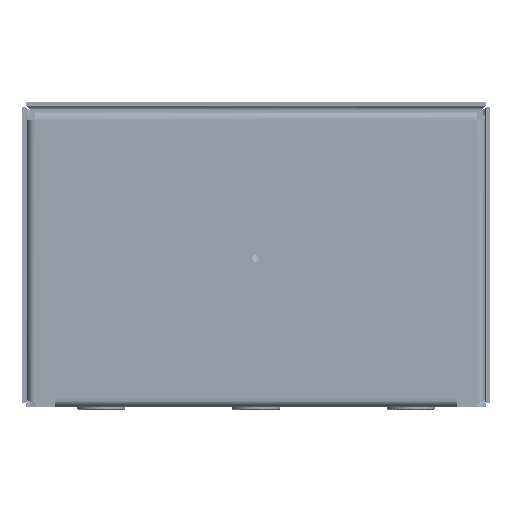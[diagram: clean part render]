
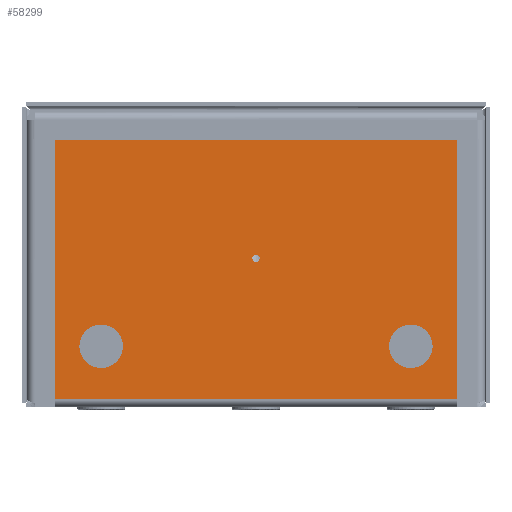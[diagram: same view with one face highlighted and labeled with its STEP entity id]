
A CAD part, front view. The second image highlights one B-rep face of the part: STEP entity #58299.
In plain terms, the highlighted planar face has unit normal (0, -1, 0).
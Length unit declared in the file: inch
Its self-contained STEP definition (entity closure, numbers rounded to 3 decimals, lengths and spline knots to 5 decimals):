
#347 = CARTESIAN_POINT ( 'NONE',  ( 11.32317, 1.44591, 24.34063 ) ) ;
#873 = DIRECTION ( 'NONE',  ( 0., 0., -1. ) ) ;
#1441 = FACE_BOUND ( 'NONE', #136986, .T. ) ;
#1544 = ORIENTED_EDGE ( 'NONE', *, *, #84757, .F. ) ;
#2431 = DIRECTION ( 'NONE',  ( 0., -1., 0. ) ) ;
#7529 = DIRECTION ( 'NONE',  ( 0., 0., -1. ) ) ;
#9046 = CARTESIAN_POINT ( 'NONE',  ( 2.13567, 1.44591, 22.97403 ) ) ;
#9542 = CARTESIAN_POINT ( 'NONE',  ( 3.32317, 1.44591, 24.34063 ) ) ;
#11818 = DIRECTION ( 'NONE',  ( 0., 0., -1. ) ) ;
#12385 = DIRECTION ( 'NONE',  ( 0., -1., 0. ) ) ;
#12557 = VERTEX_POINT ( 'NONE', #54897 ) ;
#16995 = CIRCLE ( 'NONE', #87909, 0.5625 ) ;
#18741 = VECTOR ( 'NONE', #11818, 39.37008 ) ;
#19570 = DIRECTION ( 'NONE',  ( 0., 0., 1. ) ) ;
#26022 = VECTOR ( 'NONE', #47355, 39.37008 ) ;
#27289 = ORIENTED_EDGE ( 'NONE', *, *, #82429, .F. ) ;
#27940 = LINE ( 'NONE', #127282, #18741 ) ;
#28940 = FACE_OUTER_BOUND ( 'NONE', #141325, .T. ) ;
#34222 = DIRECTION ( 'NONE',  ( 0., 0., -1. ) ) ;
#37531 = VERTEX_POINT ( 'NONE', #133506 ) ;
#39172 = CARTESIAN_POINT ( 'NONE',  ( 7.32317, 1.44591, 26.51563 ) ) ;
#40221 = AXIS2_PLACEMENT_3D ( 'NONE', #347, #2431, #873 ) ;
#40443 = DIRECTION ( 'NONE',  ( 0., 0., 1. ) ) ;
#41111 = EDGE_CURVE ( 'NONE', #134559, #104695, #82543, .T. ) ;
#41700 = FACE_BOUND ( 'NONE', #43713, .T. ) ;
#42317 = CARTESIAN_POINT ( 'NONE',  ( 7.32317, 1.44591, 26.61063 ) ) ;
#43713 = EDGE_LOOP ( 'NONE', ( #127293, #54080 ) ) ;
#46429 = EDGE_CURVE ( 'NONE', #89515, #98196, #139519, .T. ) ;
#47185 = AXIS2_PLACEMENT_3D ( 'NONE', #80784, #12385, #104850 ) ;
#47355 = DIRECTION ( 'NONE',  ( -1., 0., 0. ) ) ;
#50491 = CARTESIAN_POINT ( 'NONE',  ( 12.51067, 1.44591, 22.97403 ) ) ;
#51134 = CIRCLE ( 'NONE', #76098, 0.095 ) ;
#51634 = LINE ( 'NONE', #9046, #26022 ) ;
#52158 = ORIENTED_EDGE ( 'NONE', *, *, #127010, .F. ) ;
#52166 = PLANE ( 'NONE',  #94881 ) ;
#54080 = ORIENTED_EDGE ( 'NONE', *, *, #142949, .F. ) ;
#54471 = VERTEX_POINT ( 'NONE', #71106 ) ;
#54897 = CARTESIAN_POINT ( 'NONE',  ( 2.13567, 1.44591, 29.67063 ) ) ;
#55245 = CARTESIAN_POINT ( 'NONE',  ( 2.13567, 1.44591, 22.76063 ) ) ;
#55516 = DIRECTION ( 'NONE',  ( 0., 0., -1. ) ) ;
#56150 = DIRECTION ( 'NONE',  ( 0., -1., 0. ) ) ;
#57256 = VERTEX_POINT ( 'NONE', #50491 ) ;
#58299 = ADVANCED_FACE ( 'NONE', ( #28940, #131271, #1441, #41700 ), #52166, .F. ) ;
#61300 = EDGE_CURVE ( 'NONE', #104695, #134559, #72510, .T. ) ;
#63857 = DIRECTION ( 'NONE',  ( 0., 1., 0. ) ) ;
#66251 = ORIENTED_EDGE ( 'NONE', *, *, #46429, .F. ) ;
#67705 = CARTESIAN_POINT ( 'NONE',  ( 3.32317, 1.44591, 24.34063 ) ) ;
#69713 = AXIS2_PLACEMENT_3D ( 'NONE', #9542, #103054, #55516 ) ;
#70980 = VECTOR ( 'NONE', #75232, 39.37008 ) ;
#71106 = CARTESIAN_POINT ( 'NONE',  ( 7.32317, 1.44591, 26.70563 ) ) ;
#72510 = CIRCLE ( 'NONE', #69713, 0.5625 ) ;
#75232 = DIRECTION ( 'NONE',  ( 1., 0., 0. ) ) ;
#76098 = AXIS2_PLACEMENT_3D ( 'NONE', #42317, #147586, #7529 ) ;
#76113 = CARTESIAN_POINT ( 'NONE',  ( 2.13567, 1.44591, 22.76063 ) ) ;
#78574 = AXIS2_PLACEMENT_3D ( 'NONE', #67705, #79980, #127046 ) ;
#79980 = DIRECTION ( 'NONE',  ( 0., -1., 0. ) ) ;
#80784 = CARTESIAN_POINT ( 'NONE',  ( 7.32317, 1.44591, 26.61063 ) ) ;
#82429 = EDGE_CURVE ( 'NONE', #37531, #12557, #105156, .T. ) ;
#82543 = CIRCLE ( 'NONE', #78574, 0.5625 ) ;
#84757 = EDGE_CURVE ( 'NONE', #96303, #57256, #27940, .T. ) ;
#87909 = AXIS2_PLACEMENT_3D ( 'NONE', #150736, #56150, #34222 ) ;
#89515 = VERTEX_POINT ( 'NONE', #136437 ) ;
#92724 = CARTESIAN_POINT ( 'NONE',  ( 3.32317, 1.44591, 24.90313 ) ) ;
#94881 = AXIS2_PLACEMENT_3D ( 'NONE', #76113, #63857, #40443 ) ;
#95394 = CARTESIAN_POINT ( 'NONE',  ( 3.32317, 1.44591, 23.77813 ) ) ;
#96303 = VERTEX_POINT ( 'NONE', #108042 ) ;
#96601 = ORIENTED_EDGE ( 'NONE', *, *, #107248, .F. ) ;
#98196 = VERTEX_POINT ( 'NONE', #105184 ) ;
#100058 = ORIENTED_EDGE ( 'NONE', *, *, #117615, .F. ) ;
#102320 = VERTEX_POINT ( 'NONE', #39172 ) ;
#102541 = CIRCLE ( 'NONE', #47185, 0.095 ) ;
#103054 = DIRECTION ( 'NONE',  ( 0., -1., 0. ) ) ;
#104695 = VERTEX_POINT ( 'NONE', #92724 ) ;
#104850 = DIRECTION ( 'NONE',  ( 0., 0., -1. ) ) ;
#105156 = LINE ( 'NONE', #55245, #141669 ) ;
#105184 = CARTESIAN_POINT ( 'NONE',  ( 11.32317, 1.44591, 24.90313 ) ) ;
#107248 = EDGE_CURVE ( 'NONE', #12557, #96303, #126850, .T. ) ;
#108042 = CARTESIAN_POINT ( 'NONE',  ( 12.51067, 1.44591, 29.67063 ) ) ;
#109731 = ORIENTED_EDGE ( 'NONE', *, *, #61300, .F. ) ;
#117615 = EDGE_CURVE ( 'NONE', #98196, #89515, #16995, .T. ) ;
#120762 = CARTESIAN_POINT ( 'NONE',  ( 2.13567, 1.44591, 29.67063 ) ) ;
#121075 = EDGE_CURVE ( 'NONE', #102320, #54471, #102541, .T. ) ;
#126850 = LINE ( 'NONE', #120762, #70980 ) ;
#127010 = EDGE_CURVE ( 'NONE', #57256, #37531, #51634, .T. ) ;
#127046 = DIRECTION ( 'NONE',  ( 0., 0., -1. ) ) ;
#127282 = CARTESIAN_POINT ( 'NONE',  ( 12.51067, 1.44591, 22.76063 ) ) ;
#127293 = ORIENTED_EDGE ( 'NONE', *, *, #121075, .F. ) ;
#131271 = FACE_BOUND ( 'NONE', #135927, .T. ) ;
#133506 = CARTESIAN_POINT ( 'NONE',  ( 2.13567, 1.44591, 22.97403 ) ) ;
#134559 = VERTEX_POINT ( 'NONE', #95394 ) ;
#135927 = EDGE_LOOP ( 'NONE', ( #149550, #109731 ) ) ;
#136437 = CARTESIAN_POINT ( 'NONE',  ( 11.32317, 1.44591, 23.77813 ) ) ;
#136986 = EDGE_LOOP ( 'NONE', ( #66251, #100058 ) ) ;
#139519 = CIRCLE ( 'NONE', #40221, 0.5625 ) ;
#141325 = EDGE_LOOP ( 'NONE', ( #96601, #27289, #52158, #1544 ) ) ;
#141669 = VECTOR ( 'NONE', #19570, 39.37008 ) ;
#142949 = EDGE_CURVE ( 'NONE', #54471, #102320, #51134, .T. ) ;
#147586 = DIRECTION ( 'NONE',  ( 0., -1., 0. ) ) ;
#149550 = ORIENTED_EDGE ( 'NONE', *, *, #41111, .F. ) ;
#150736 = CARTESIAN_POINT ( 'NONE',  ( 11.32317, 1.44591, 24.34063 ) ) ;
